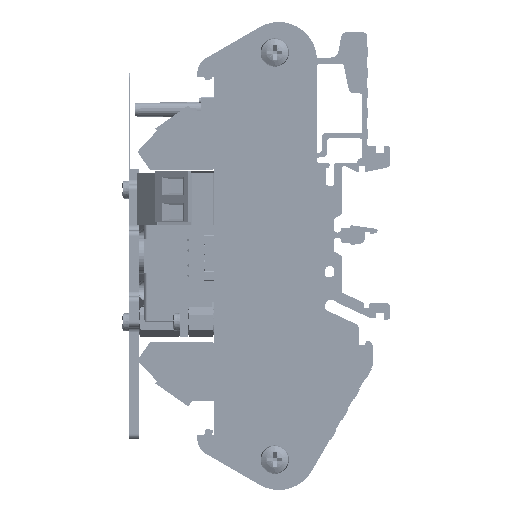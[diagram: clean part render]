
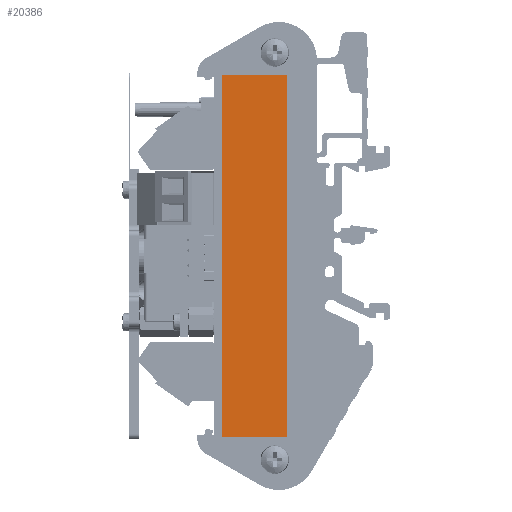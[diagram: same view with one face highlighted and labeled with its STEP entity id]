
A CAD part, left-side view. The second image highlights one B-rep face of the part: STEP entity #20386.
In plain terms, the highlighted planar face has unit normal (-1, 0, 0) as drawn and (0, 0, 1) by its records, which use the part's own axes.
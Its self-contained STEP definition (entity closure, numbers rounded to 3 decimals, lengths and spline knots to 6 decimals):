
#20386=ADVANCED_FACE('4:1117',(#37267),#37268,.F.);
#37267=FACE_OUTER_BOUND('',#57060,.T.);
#37268=PLANE('',#57061);
#57060=EDGE_LOOP('',(#83873,#83874,#83875,#83876));
#57061=AXIS2_PLACEMENT_3D('',#83877,#83878,#83879);
#83873=ORIENTED_EDGE('',*,*,#103082,.T.);
#83874=ORIENTED_EDGE('',*,*,#103080,.T.);
#83875=ORIENTED_EDGE('',*,*,#103078,.T.);
#83876=ORIENTED_EDGE('',*,*,#103076,.T.);
#83877=CARTESIAN_POINT('',(0.0,0.004835,0.001735));
#83878=DIRECTION('',(0.0,0.,-1.0));
#83879=DIRECTION('',(1.0,0.0,0.0));
#103076=EDGE_CURVE('4:4366',#122547,#122545,#122548,.T.);
#103078=EDGE_CURVE('4:4372',#122550,#122547,#122551,.T.);
#103080=EDGE_CURVE('4:4378',#122553,#122550,#122554,.T.);
#103082=EDGE_CURVE('4:4384',#122545,#122553,#122556,.T.);
#122545=VERTEX_POINT('',#144758);
#122547=VERTEX_POINT('',#144761);
#122548=LINE('',#144762,#144763);
#122550=VERTEX_POINT('',#144766);
#122551=LINE('',#144767,#144768);
#122553=VERTEX_POINT('',#144771);
#122554=LINE('',#144772,#144773);
#122556=LINE('',#144776,#144777);
#144758=CARTESIAN_POINT('',(-0.0355,0.004635,0.001735));
#144761=CARTESIAN_POINT('',(-0.0355,0.018135,0.001735));
#144762=CARTESIAN_POINT('',(-0.0355,0.018135,0.001735));
#144763=VECTOR('',#156436,0.0135);
#144766=CARTESIAN_POINT('',(0.0355,0.018135,0.001735));
#144767=CARTESIAN_POINT('',(0.0355,0.018135,0.001735));
#144768=VECTOR('',#156438,0.071);
#144771=CARTESIAN_POINT('',(0.0355,0.004635,0.001735));
#144772=CARTESIAN_POINT('',(0.0355,0.004635,0.001735));
#144773=VECTOR('',#156440,0.0135);
#144776=CARTESIAN_POINT('',(-0.0355,0.004635,0.001735));
#144777=VECTOR('',#156442,0.071);
#156436=DIRECTION('',(0.0,-1.0,0.));
#156438=DIRECTION('',(-1.0,-0.0,0.0));
#156440=DIRECTION('',(0.0,1.0,0.));
#156442=DIRECTION('',(1.0,0.0,0.0));
